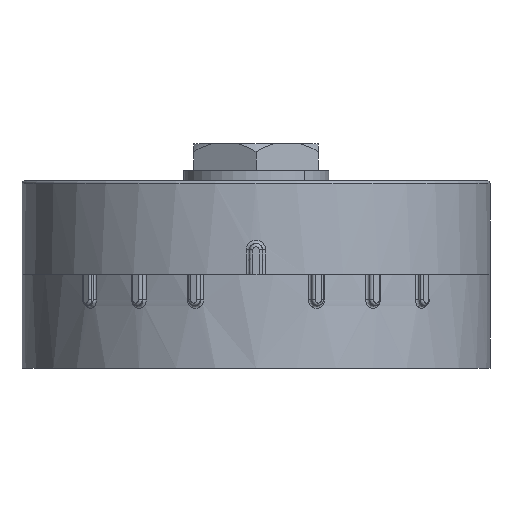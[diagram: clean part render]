
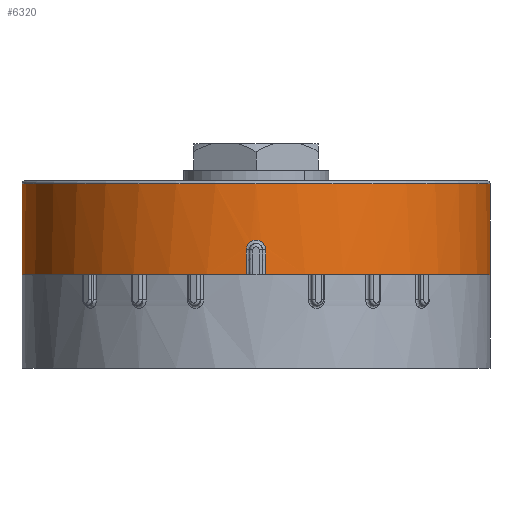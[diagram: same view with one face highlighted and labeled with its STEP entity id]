
A CAD part, front view. The second image highlights one B-rep face of the part: STEP entity #6320.
In plain terms, the highlighted cylindrical face has radius 45 mm (diameter 90 mm), a partial arc.
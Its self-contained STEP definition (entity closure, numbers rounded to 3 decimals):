
#90 = DIRECTION ( 'NONE',  ( 0., 0., 1. ) ) ;
#96 = EDGE_CURVE ( 'NONE', #3488, #1648, #6016, .T. ) ;
#276 = AXIS2_PLACEMENT_3D ( 'NONE', #441, #5594, #3246 ) ;
#334 = VECTOR ( 'NONE', #6522, 1000. ) ;
#389 = CARTESIAN_POINT ( 'NONE',  ( 1.873, -44.961, 3.998 ) ) ;
#422 = CARTESIAN_POINT ( 'NONE',  ( -0.245, -45., 2.35 ) ) ;
#441 = CARTESIAN_POINT ( 'NONE',  ( 0., 0., 9. ) ) ;
#455 = CARTESIAN_POINT ( 'NONE',  ( 1.873, -44.961, 4.25 ) ) ;
#734 = EDGE_CURVE ( 'NONE', #3488, #4427, #5394, .T. ) ;
#795 = VERTEX_POINT ( 'NONE', #455 ) ;
#852 = ORIENTED_EDGE ( 'NONE', *, *, #734, .T. ) ;
#895 = CARTESIAN_POINT ( 'NONE',  ( 45., 0., -8.5 ) ) ;
#1013 = ORIENTED_EDGE ( 'NONE', *, *, #6991, .T. ) ;
#1021 = CARTESIAN_POINT ( 'NONE',  ( 0.243, -45., 2.35 ) ) ;
#1051 = CARTESIAN_POINT ( 'NONE',  ( 1.825, -44.963, 3.755 ) ) ;
#1125 = FACE_OUTER_BOUND ( 'NONE', #3260, .T. ) ;
#1155 = B_SPLINE_CURVE_WITH_KNOTS ( 'NONE', 3,
 ( #6282, #3435, #4032, #4554 ),
 .UNSPECIFIED., .F., .F.,
 ( 4, 4 ),
 ( 0., 1. ),
 .UNSPECIFIED. ) ;
#1368 = EDGE_CURVE ( 'NONE', #2964, #795, #6275, .T. ) ;
#1503 = ORIENTED_EDGE ( 'NONE', *, *, #3486, .T. ) ;
#1577 = CARTESIAN_POINT ( 'NONE',  ( 1.634, -44.97, 3.288 ) ) ;
#1601 = CARTESIAN_POINT ( 'NONE',  ( -0.484, -44.998, 2.399 ) ) ;
#1648 = VERTEX_POINT ( 'NONE', #2290 ) ;
#1703 = CARTESIAN_POINT ( 'NONE',  ( 45., 0., 9. ) ) ;
#1753 = CARTESIAN_POINT ( 'NONE',  ( -1.873, -44.961, 4.25 ) ) ;
#1937 = EDGE_CURVE ( 'NONE', #795, #5551, #2111, .T. ) ;
#2068 = ORIENTED_EDGE ( 'NONE', *, *, #2683, .F. ) ;
#2087 = CARTESIAN_POINT ( 'NONE',  ( 0.482, -44.998, 2.398 ) ) ;
#2111 = B_SPLINE_CURVE_WITH_KNOTS ( 'NONE', 3,
 ( #2657, #389, #1051, #1577, #7219, #6117, #4988, #2087, #1021, #422, #1601, #7171, #6704, #6065, #5547, #5495, #6041, #4407 ),
 .UNSPECIFIED., .F., .F.,
 ( 4, 2, 2, 2, 2, 2, 2, 2, 4 ),
 ( 0., 0.125, 0.25, 0.375, 0.5, 0.625, 0.75, 0.875, 1. ),
 .UNSPECIFIED. ) ;
#2290 = CARTESIAN_POINT ( 'NONE',  ( -1.873, -44.961, 9. ) ) ;
#2393 = DIRECTION ( 'NONE',  ( 0., 0., -1. ) ) ;
#2448 = CARTESIAN_POINT ( 'NONE',  ( 0., 0., 9. ) ) ;
#2504 = ORIENTED_EDGE ( 'NONE', *, *, #1937, .T. ) ;
#2570 = CARTESIAN_POINT ( 'NONE',  ( -45., 0., 9. ) ) ;
#2639 = CARTESIAN_POINT ( 'NONE',  ( 1.873, -44.961, 9. ) ) ;
#2657 = CARTESIAN_POINT ( 'NONE',  ( 1.873, -44.961, 4.25 ) ) ;
#2683 = EDGE_CURVE ( 'NONE', #5649, #2931, #6466, .T. ) ;
#2895 = CARTESIAN_POINT ( 'NONE',  ( -45., 0., 9. ) ) ;
#2931 = VERTEX_POINT ( 'NONE', #895 ) ;
#2964 = VERTEX_POINT ( 'NONE', #5810 ) ;
#2992 = CIRCLE ( 'NONE', #3548, 45. ) ;
#3021 = AXIS2_PLACEMENT_3D ( 'NONE', #3445, #90, #5704 ) ;
#3049 = CIRCLE ( 'NONE', #3021, 45. ) ;
#3246 = DIRECTION ( 'NONE',  ( -1., 0., 0. ) ) ;
#3260 = EDGE_LOOP ( 'NONE', ( #2068, #4911, #6581, #2504, #1503, #5897, #852, #1013 ) ) ;
#3435 = CARTESIAN_POINT ( 'NONE',  ( -1.873, -44.961, 5.833 ) ) ;
#3445 = CARTESIAN_POINT ( 'NONE',  ( 0., 0., -8.5 ) ) ;
#3472 = CARTESIAN_POINT ( 'NONE',  ( 45., 0., 9. ) ) ;
#3486 = EDGE_CURVE ( 'NONE', #5551, #1648, #1155, .T. ) ;
#3488 = VERTEX_POINT ( 'NONE', #2895 ) ;
#3548 = AXIS2_PLACEMENT_3D ( 'NONE', #6126, #5423, #6689 ) ;
#3579 = DIRECTION ( 'NONE',  ( 0., 0., 1. ) ) ;
#3749 = CARTESIAN_POINT ( 'NONE',  ( 1.873, -44.961, 4.25 ) ) ;
#4032 = CARTESIAN_POINT ( 'NONE',  ( -1.873, -44.961, 7.417 ) ) ;
#4204 = DIRECTION ( 'NONE',  ( 1., 0., 0. ) ) ;
#4407 = CARTESIAN_POINT ( 'NONE',  ( -1.873, -44.961, 4.25 ) ) ;
#4427 = VERTEX_POINT ( 'NONE', #6411 ) ;
#4489 = EDGE_CURVE ( 'NONE', #2964, #5649, #2992, .T. ) ;
#4520 = VECTOR ( 'NONE', #2393, 1000. ) ;
#4554 = CARTESIAN_POINT ( 'NONE',  ( -1.873, -44.961, 9. ) ) ;
#4911 = ORIENTED_EDGE ( 'NONE', *, *, #4489, .F. ) ;
#4988 = CARTESIAN_POINT ( 'NONE',  ( 0.944, -44.991, 2.591 ) ) ;
#5394 = LINE ( 'NONE', #2570, #334 ) ;
#5423 = DIRECTION ( 'NONE',  ( 0., 0., 1. ) ) ;
#5427 = CARTESIAN_POINT ( 'NONE',  ( 1.873, -44.961, 5.833 ) ) ;
#5495 = CARTESIAN_POINT ( 'NONE',  ( -1.825, -44.963, 3.759 ) ) ;
#5547 = CARTESIAN_POINT ( 'NONE',  ( -1.632, -44.971, 3.287 ) ) ;
#5551 = VERTEX_POINT ( 'NONE', #1753 ) ;
#5594 = DIRECTION ( 'NONE',  ( 0., 0., -1. ) ) ;
#5649 = VERTEX_POINT ( 'NONE', #1703 ) ;
#5704 = DIRECTION ( 'NONE',  ( 1., 0., 0. ) ) ;
#5810 = CARTESIAN_POINT ( 'NONE',  ( 1.873, -44.961, 9. ) ) ;
#5897 = ORIENTED_EDGE ( 'NONE', *, *, #96, .F. ) ;
#6016 = CIRCLE ( 'NONE', #6326, 45. ) ;
#6041 = CARTESIAN_POINT ( 'NONE',  ( -1.873, -44.961, 4.001 ) ) ;
#6065 = CARTESIAN_POINT ( 'NONE',  ( -1.497, -44.975, 3.082 ) ) ;
#6073 = CYLINDRICAL_SURFACE ( 'NONE', #276, 45. ) ;
#6117 = CARTESIAN_POINT ( 'NONE',  ( 1.149, -44.986, 2.729 ) ) ;
#6126 = CARTESIAN_POINT ( 'NONE',  ( 0., 0., 9. ) ) ;
#6275 = B_SPLINE_CURVE_WITH_KNOTS ( 'NONE', 3,
 ( #2639, #6642, #5427, #3749 ),
 .UNSPECIFIED., .F., .F.,
 ( 4, 4 ),
 ( 0., 1. ),
 .UNSPECIFIED. ) ;
#6282 = CARTESIAN_POINT ( 'NONE',  ( -1.873, -44.961, 4.25 ) ) ;
#6320 = ADVANCED_FACE ( 'NONE', ( #1125 ), #6073, .T. ) ;
#6326 = AXIS2_PLACEMENT_3D ( 'NONE', #2448, #3579, #4204 ) ;
#6411 = CARTESIAN_POINT ( 'NONE',  ( -45., 0., -8.5 ) ) ;
#6466 = LINE ( 'NONE', #3472, #4520 ) ;
#6522 = DIRECTION ( 'NONE',  ( 0., 0., -1. ) ) ;
#6581 = ORIENTED_EDGE ( 'NONE', *, *, #1368, .T. ) ;
#6642 = CARTESIAN_POINT ( 'NONE',  ( 1.873, -44.961, 7.417 ) ) ;
#6689 = DIRECTION ( 'NONE',  ( 1., 0., 0. ) ) ;
#6704 = CARTESIAN_POINT ( 'NONE',  ( -1.152, -44.986, 2.731 ) ) ;
#6991 = EDGE_CURVE ( 'NONE', #4427, #2931, #3049, .T. ) ;
#7171 = CARTESIAN_POINT ( 'NONE',  ( -0.949, -44.991, 2.595 ) ) ;
#7219 = CARTESIAN_POINT ( 'NONE',  ( 1.498, -44.975, 3.082 ) ) ;
